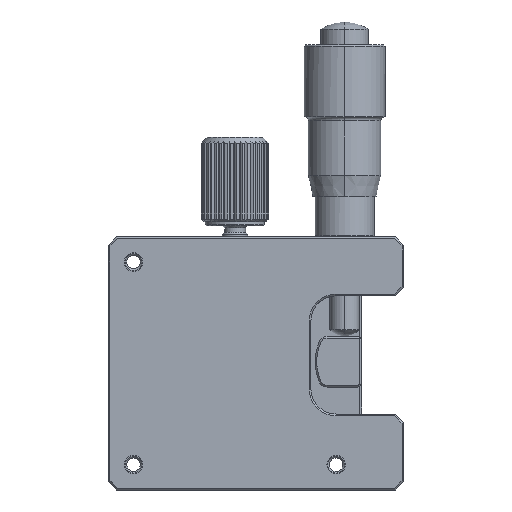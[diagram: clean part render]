
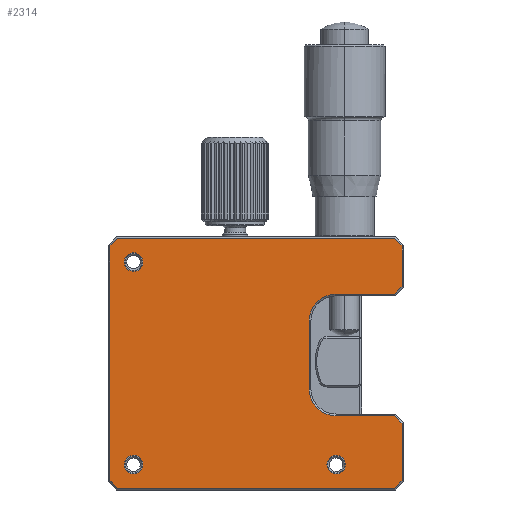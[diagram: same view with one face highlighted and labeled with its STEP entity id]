
A CAD part, front view. The second image highlights one B-rep face of the part: STEP entity #2314.
In plain terms, the highlighted planar face has unit normal (0, -1, 0).
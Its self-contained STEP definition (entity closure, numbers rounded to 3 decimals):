
#329=DIRECTION('',(-0.707,0.,-0.707));
#330=VECTOR('',#329,1.249);
#331=CARTESIAN_POINT('',(19.8,-11.,9.083));
#332=LINE('',#331,#330);
#333=DIRECTION('',(-1.,0.,0.));
#334=VECTOR('',#333,6.917);
#335=CARTESIAN_POINT('',(18.917,-11.,8.2));
#336=LINE('',#335,#334);
#337=CARTESIAN_POINT('',(12.,-11.,5.));
#338=DIRECTION('',(0.,-1.,0.));
#339=DIRECTION('',(0.,0.,1.));
#340=AXIS2_PLACEMENT_3D('',#337,#338,#339);
#342=DIRECTION('',(0.,0.,-1.));
#343=VECTOR('',#342,8.);
#344=CARTESIAN_POINT('',(8.8,-11.,5.));
#345=LINE('',#344,#343);
#346=CARTESIAN_POINT('',(12.,-11.,-3.));
#347=DIRECTION('',(0.,-1.,0.));
#348=DIRECTION('',(-1.,0.,0.));
#349=AXIS2_PLACEMENT_3D('',#346,#347,#348);
#351=DIRECTION('',(1.,0.,0.));
#352=VECTOR('',#351,6.917);
#353=CARTESIAN_POINT('',(12.,-11.,-6.2));
#354=LINE('',#353,#352);
#355=DIRECTION('',(0.707,0.,-0.707));
#356=VECTOR('',#355,1.249);
#357=CARTESIAN_POINT('',(18.917,-11.,-6.2));
#358=LINE('',#357,#356);
#359=DIRECTION('',(0.,0.,-1.));
#360=VECTOR('',#359,6.834);
#361=CARTESIAN_POINT('',(19.8,-11.,-7.083));
#362=LINE('',#361,#360);
#363=DIRECTION('',(-0.707,0.,-0.707));
#364=VECTOR('',#363,1.249);
#365=CARTESIAN_POINT('',(19.8,-11.,-13.917));
#366=LINE('',#365,#364);
#367=DIRECTION('',(-1.,0.,0.));
#368=VECTOR('',#367,32.834);
#369=CARTESIAN_POINT('',(18.917,-11.,-14.8));
#370=LINE('',#369,#368);
#371=DIRECTION('',(-0.707,0.,0.707));
#372=VECTOR('',#371,1.249);
#373=CARTESIAN_POINT('',(-13.917,-11.,-14.8));
#374=LINE('',#373,#372);
#375=DIRECTION('',(0.,0.,1.));
#376=VECTOR('',#375,27.834);
#377=CARTESIAN_POINT('',(-14.8,-11.,-13.917));
#378=LINE('',#377,#376);
#379=DIRECTION('',(0.707,0.,0.707));
#380=VECTOR('',#379,1.249);
#381=CARTESIAN_POINT('',(-14.8,-11.,13.917));
#382=LINE('',#381,#380);
#383=DIRECTION('',(1.,0.,0.));
#384=VECTOR('',#383,32.834);
#385=CARTESIAN_POINT('',(-13.917,-11.,14.8));
#386=LINE('',#385,#384);
#387=DIRECTION('',(0.707,0.,-0.707));
#388=VECTOR('',#387,1.249);
#389=CARTESIAN_POINT('',(18.917,-11.,14.8));
#390=LINE('',#389,#388);
#391=DIRECTION('',(0.,0.,-1.));
#392=VECTOR('',#391,4.834);
#393=CARTESIAN_POINT('',(19.8,-11.,13.917));
#394=LINE('',#393,#392);
#395=CARTESIAN_POINT('',(12.,-11.,-12.));
#396=DIRECTION('',(0.,-1.,0.));
#397=DIRECTION('',(-1.,0.,0.));
#398=AXIS2_PLACEMENT_3D('',#395,#396,#397);
#400=CARTESIAN_POINT('',(12.,-11.,-12.));
#401=DIRECTION('',(0.,-1.,0.));
#402=DIRECTION('',(1.,0.,0.));
#403=AXIS2_PLACEMENT_3D('',#400,#401,#402);
#405=CARTESIAN_POINT('',(-12.,-11.,12.));
#406=DIRECTION('',(0.,-1.,0.));
#407=DIRECTION('',(-1.,0.,0.));
#408=AXIS2_PLACEMENT_3D('',#405,#406,#407);
#410=CARTESIAN_POINT('',(-12.,-11.,12.));
#411=DIRECTION('',(0.,-1.,0.));
#412=DIRECTION('',(1.,0.,0.));
#413=AXIS2_PLACEMENT_3D('',#410,#411,#412);
#415=CARTESIAN_POINT('',(-12.,-11.,-12.));
#416=DIRECTION('',(0.,-1.,0.));
#417=DIRECTION('',(-1.,0.,0.));
#418=AXIS2_PLACEMENT_3D('',#415,#416,#417);
#420=CARTESIAN_POINT('',(-12.,-11.,-12.));
#421=DIRECTION('',(0.,-1.,0.));
#422=DIRECTION('',(1.,0.,0.));
#423=AXIS2_PLACEMENT_3D('',#420,#421,#422);
#1801=CARTESIAN_POINT('',(12.,-11.,8.2));
#1802=CARTESIAN_POINT('',(8.8,-11.,5.));
#1803=VERTEX_POINT('',#1801);
#1804=VERTEX_POINT('',#1802);
#1805=CARTESIAN_POINT('',(19.8,-11.,9.083));
#1806=CARTESIAN_POINT('',(18.917,-11.,8.2));
#1807=VERTEX_POINT('',#1805);
#1808=VERTEX_POINT('',#1806);
#1809=CARTESIAN_POINT('',(8.8,-11.,
-3.));
#1810=VERTEX_POINT('',#1809);
#1811=CARTESIAN_POINT('',(12.,-11.,-6.2));
#1812=VERTEX_POINT('',#1811);
#1813=CARTESIAN_POINT('',(18.917,-11.,-6.2));
#1814=VERTEX_POINT('',#1813);
#1815=CARTESIAN_POINT('',(19.8,-11.,-7.083));
#1816=VERTEX_POINT('',#1815);
#1817=CARTESIAN_POINT('',(19.8,-11.,-13.917));
#1818=VERTEX_POINT('',#1817);
#1819=CARTESIAN_POINT('',(18.917,-11.,-14.8));
#1820=VERTEX_POINT('',#1819);
#1821=CARTESIAN_POINT('',(-13.917,-11.,-14.8));
#1822=VERTEX_POINT('',#1821);
#1823=CARTESIAN_POINT('',(-14.8,-11.,-13.917));
#1824=VERTEX_POINT('',#1823);
#1825=CARTESIAN_POINT('',(-14.8,-11.,13.917));
#1826=VERTEX_POINT('',#1825);
#1827=CARTESIAN_POINT('',(-13.917,-11.,14.8));
#1828=VERTEX_POINT('',#1827);
#1829=CARTESIAN_POINT('',(18.917,-11.,14.8));
#1830=VERTEX_POINT('',#1829);
#1831=CARTESIAN_POINT('',(19.8,-11.,13.917));
#1832=VERTEX_POINT('',#1831);
#1833=CARTESIAN_POINT('',(10.9,-11.,-12.));
#1834=CARTESIAN_POINT('',(13.1,-11.,-12.));
#1835=VERTEX_POINT('',#1833);
#1836=VERTEX_POINT('',#1834);
#1837=CARTESIAN_POINT('',(-13.1,-11.,12.));
#1838=CARTESIAN_POINT('',(-10.9,-11.,12.));
#1839=VERTEX_POINT('',#1837);
#1840=VERTEX_POINT('',#1838);
#1841=CARTESIAN_POINT('',(-13.1,-11.,-12.));
#1842=CARTESIAN_POINT('',(-10.9,-11.,-12.));
#1843=VERTEX_POINT('',#1841);
#1844=VERTEX_POINT('',#1842);
#2259=CARTESIAN_POINT('',(0.,-11.,0.));
#2260=DIRECTION('',(0.,1.,0.));
#2261=DIRECTION('',(1.,0.,0.));
#2262=AXIS2_PLACEMENT_3D('',#2259,#2260,#2261);
#2263=PLANE('',#2262);
#2265=ORIENTED_EDGE('',*,*,#2264,.T.);
#2267=ORIENTED_EDGE('',*,*,#2266,.T.);
#2269=ORIENTED_EDGE('',*,*,#2268,.T.);
#2271=ORIENTED_EDGE('',*,*,#2270,.T.);
#2273=ORIENTED_EDGE('',*,*,#2272,.T.);
#2275=ORIENTED_EDGE('',*,*,#2274,.T.);
#2277=ORIENTED_EDGE('',*,*,#2276,.T.);
#2279=ORIENTED_EDGE('',*,*,#2278,.T.);
#2281=ORIENTED_EDGE('',*,*,#2280,.T.);
#2283=ORIENTED_EDGE('',*,*,#2282,.T.);
#2285=ORIENTED_EDGE('',*,*,#2284,.T.);
#2287=ORIENTED_EDGE('',*,*,#2286,.T.);
#2289=ORIENTED_EDGE('',*,*,#2288,.T.);
#2290=ORIENTED_EDGE('',*,*,#2237,.T.);
#2291=ORIENTED_EDGE('',*,*,#2249,.T.);
#2293=ORIENTED_EDGE('',*,*,#2292,.T.);
#2294=EDGE_LOOP('',(#2265,#2267,#2269,#2271,#2273,#2275,#2277,#2279,#2281,#2283,
#2285,#2287,#2289,#2290,#2291,#2293));
#2295=FACE_OUTER_BOUND('',#2294,.F.);
#2297=ORIENTED_EDGE('',*,*,#2296,.T.);
#2299=ORIENTED_EDGE('',*,*,#2298,.T.);
#2300=EDGE_LOOP('',(#2297,#2299));
#2301=FACE_BOUND('',#2300,.F.);
#2303=ORIENTED_EDGE('',*,*,#2302,.T.);
#2305=ORIENTED_EDGE('',*,*,#2304,.T.);
#2306=EDGE_LOOP('',(#2303,#2305));
#2307=FACE_BOUND('',#2306,.F.);
#2309=ORIENTED_EDGE('',*,*,#2308,.T.);
#2311=ORIENTED_EDGE('',*,*,#2310,.T.);
#2312=EDGE_LOOP('',(#2309,#2311));
#2313=FACE_BOUND('',#2312,.F.);
#2314=ADVANCED_FACE('',(#2295,#2301,#2307,#2313),#2263,.F.);
#341=CIRCLE('',#340,3.2);
#350=CIRCLE('',#349,3.2);
#399=CIRCLE('',#398,1.1);
#404=CIRCLE('',#403,1.1);
#409=CIRCLE('',#408,1.1);
#414=CIRCLE('',#413,1.1);
#419=CIRCLE('',#418,1.1);
#424=CIRCLE('',#423,1.1);
#2237=EDGE_CURVE('',#1828,#1830,#386,.T.);
#2249=EDGE_CURVE('',#1830,#1832,#390,.T.);
#2264=EDGE_CURVE('',#1807,#1808,#332,.T.);
#2266=EDGE_CURVE('',#1808,#1803,#336,.T.);
#2268=EDGE_CURVE('',#1803,#1804,#341,.T.);
#2270=EDGE_CURVE('',#1804,#1810,#345,.T.);
#2272=EDGE_CURVE('',#1810,#1812,#350,.T.);
#2274=EDGE_CURVE('',#1812,#1814,#354,.T.);
#2276=EDGE_CURVE('',#1814,#1816,#358,.T.);
#2278=EDGE_CURVE('',#1816,#1818,#362,.T.);
#2280=EDGE_CURVE('',#1818,#1820,#366,.T.);
#2282=EDGE_CURVE('',#1820,#1822,#370,.T.);
#2284=EDGE_CURVE('',#1822,#1824,#374,.T.);
#2286=EDGE_CURVE('',#1824,#1826,#378,.T.);
#2288=EDGE_CURVE('',#1826,#1828,#382,.T.);
#2292=EDGE_CURVE('',#1832,#1807,#394,.T.);
#2296=EDGE_CURVE('',#1835,#1836,#399,.T.);
#2298=EDGE_CURVE('',#1836,#1835,#404,.T.);
#2302=EDGE_CURVE('',#1839,#1840,#409,.T.);
#2304=EDGE_CURVE('',#1840,#1839,#414,.T.);
#2308=EDGE_CURVE('',#1843,#1844,#419,.T.);
#2310=EDGE_CURVE('',#1844,#1843,#424,.T.);
